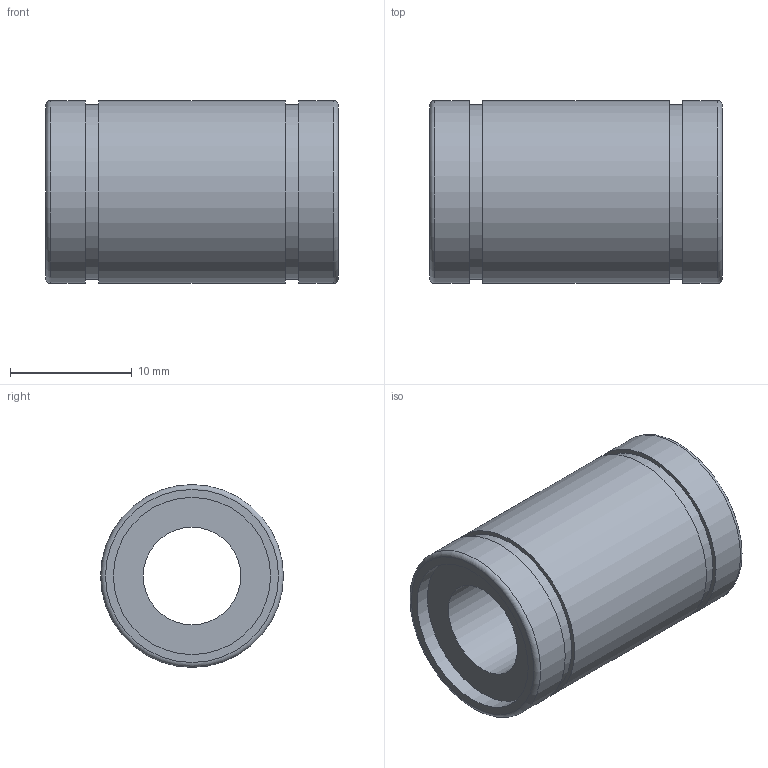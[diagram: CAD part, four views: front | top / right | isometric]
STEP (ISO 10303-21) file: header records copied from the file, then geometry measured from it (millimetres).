
FILE_DESCRIPTION( ( 'Unknown' ), '1' );
FILE_NAME( 'D:/累诀/己绕皋墨飘肺葱胶/11-04-06_档搁累己/01_府聪绢何教/LM/LM8.stp', 'Unknown', ( 'Unknown' ), ( 'Unknown' ), 'PSStep 11.0', 'Unknown', ' ' );
FILE_SCHEMA( ( 'AUTOMOTIVE_DESIGN { 1 0 10303 214 1 1 1 1 }' ) );
Length unit declared in the file: millimetre
Products named in the file (1): 1
Bounding box: 24 x 15 x 15 mm (x, y, z)
Volume: 2803.1 mm3; surface area: 2067.3 mm2
Topology: 1 solids, 1 shells, 18 faces, 29 edges, 19 vertices
Faces by surface type: plane 8, cylinder 8, torus 2
Full cylindrical faces by diameter (mm): 8 x1, 12.9 x2, 14.3 x2, 15 x3
Entity records: 528 total; most frequent: DIRECTION 74, CARTESIAN_POINT 55, AXIS2_PLACEMENT_3D 37, EDGE_LOOP 36, ORIENTED_EDGE 36, FACE_OUTER_BOUND 28, STYLED_ITEM 18, PRESENTATION_STYLE_ASSIGNMENT 18
